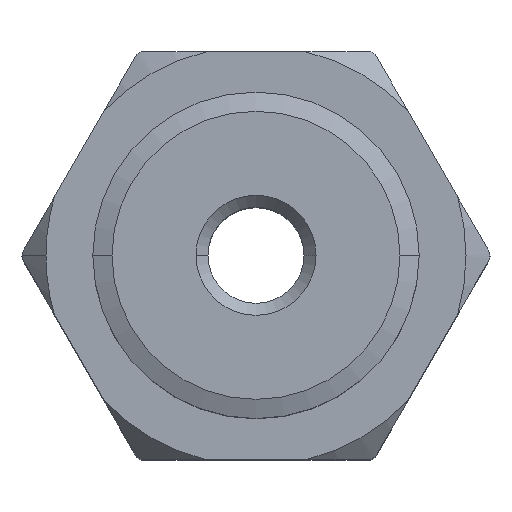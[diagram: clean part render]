
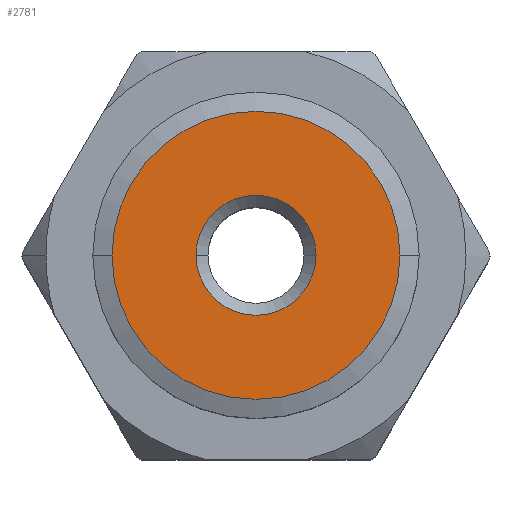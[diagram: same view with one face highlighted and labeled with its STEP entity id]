
A CAD part, top view. The second image highlights one B-rep face of the part: STEP entity #2781.
In plain terms, the highlighted planar face has unit normal (0, 0, 1).
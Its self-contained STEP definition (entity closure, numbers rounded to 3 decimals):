
#39 = DIRECTION ( 'NONE',  ( -1., 0., 0. ) ) ;
#277 = EDGE_CURVE ( 'NONE', #1979, #3082, #1026, .T. ) ;
#643 = DIRECTION ( 'NONE',  ( 0., 0., -1. ) ) ;
#660 = AXIS2_PLACEMENT_3D ( 'NONE', #807, #1824, #2806 ) ;
#780 = CARTESIAN_POINT ( 'NONE',  ( -2.5, 0., 22. ) ) ;
#799 = DIRECTION ( 'NONE',  ( -1., 0., 0. ) ) ;
#807 = CARTESIAN_POINT ( 'NONE',  ( 0., 0., 22. ) ) ;
#875 = CIRCLE ( 'NONE', #660, 6. ) ;
#990 = DIRECTION ( 'NONE',  ( -1., 0., 0. ) ) ;
#1017 = CARTESIAN_POINT ( 'NONE',  ( 0., 0., 22. ) ) ;
#1026 = CIRCLE ( 'NONE', #1881, 2.5 ) ;
#1036 = VERTEX_POINT ( 'NONE', #2619 ) ;
#1090 = VERTEX_POINT ( 'NONE', #2699 ) ;
#1119 = PLANE ( 'NONE',  #3264 ) ;
#1163 = CARTESIAN_POINT ( 'NONE',  ( 0., 0., 22. ) ) ;
#1179 = DIRECTION ( 'NONE',  ( 0., 0., -1. ) ) ;
#1309 = EDGE_CURVE ( 'NONE', #3082, #1979, #3194, .T. ) ;
#1331 = DIRECTION ( 'NONE',  ( 0., 0., -1. ) ) ;
#1364 = ORIENTED_EDGE ( 'NONE', *, *, #277, .T. ) ;
#1549 = DIRECTION ( 'NONE',  ( 0., 0., -1. ) ) ;
#1824 = DIRECTION ( 'NONE',  ( 0., 0., -1. ) ) ;
#1881 = AXIS2_PLACEMENT_3D ( 'NONE', #2554, #1331, #39 ) ;
#1979 = VERTEX_POINT ( 'NONE', #780 ) ;
#2033 = ORIENTED_EDGE ( 'NONE', *, *, #1309, .T. ) ;
#2172 = FACE_BOUND ( 'NONE', #3107, .T. ) ;
#2184 = AXIS2_PLACEMENT_3D ( 'NONE', #1017, #1549, #799 ) ;
#2224 = ORIENTED_EDGE ( 'NONE', *, *, #2971, .F. ) ;
#2327 = EDGE_CURVE ( 'NONE', #1090, #1036, #875, .T. ) ;
#2340 = CARTESIAN_POINT ( 'NONE',  ( 2.5, 0., 22. ) ) ;
#2474 = CARTESIAN_POINT ( 'NONE',  ( 0., 0., 22. ) ) ;
#2493 = AXIS2_PLACEMENT_3D ( 'NONE', #2474, #1179, #990 ) ;
#2554 = CARTESIAN_POINT ( 'NONE',  ( 0., 0., 22. ) ) ;
#2619 = CARTESIAN_POINT ( 'NONE',  ( 6., 0., 22. ) ) ;
#2642 = DIRECTION ( 'NONE',  ( -1., 0., 0. ) ) ;
#2699 = CARTESIAN_POINT ( 'NONE',  ( -6., 0., 22. ) ) ;
#2781 = ADVANCED_FACE ( 'NONE', ( #2172, #3154 ), #1119, .F. ) ;
#2806 = DIRECTION ( 'NONE',  ( -1., 0., 0. ) ) ;
#2883 = ORIENTED_EDGE ( 'NONE', *, *, #2327, .F. ) ;
#2912 = CIRCLE ( 'NONE', #2493, 6. ) ;
#2971 = EDGE_CURVE ( 'NONE', #1036, #1090, #2912, .T. ) ;
#3082 = VERTEX_POINT ( 'NONE', #2340 ) ;
#3107 = EDGE_LOOP ( 'NONE', ( #2033, #1364 ) ) ;
#3154 = FACE_OUTER_BOUND ( 'NONE', #3164, .T. ) ;
#3164 = EDGE_LOOP ( 'NONE', ( #2883, #2224 ) ) ;
#3194 = CIRCLE ( 'NONE', #2184, 2.5 ) ;
#3264 = AXIS2_PLACEMENT_3D ( 'NONE', #1163, #643, #2642 ) ;
